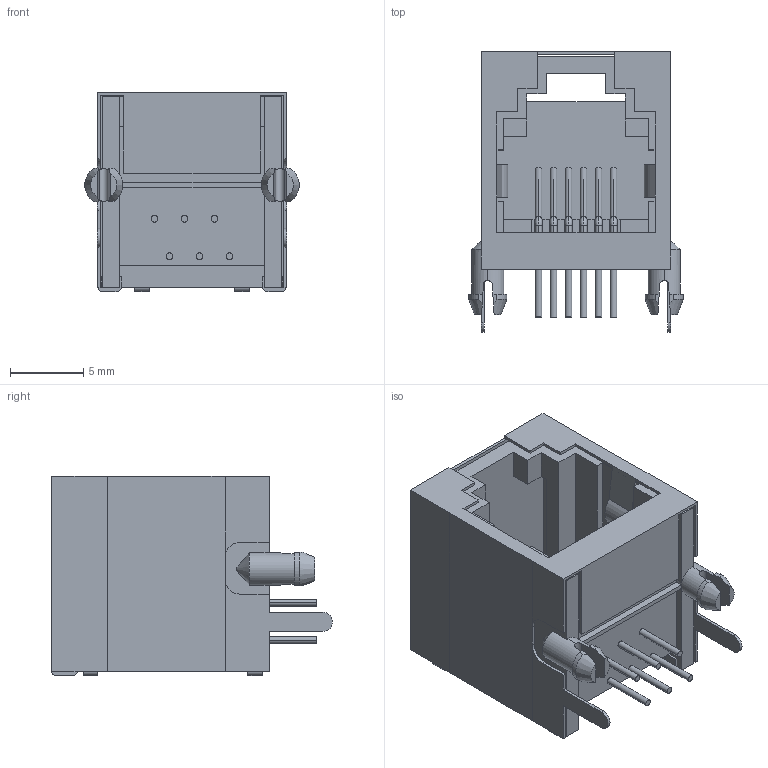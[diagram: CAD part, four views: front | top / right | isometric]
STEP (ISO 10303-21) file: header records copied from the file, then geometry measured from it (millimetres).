
FILE_DESCRIPTION (( 'STEP AP203' ), '1' );
FILE_NAME ('8949-F166-06SBA.STEP', '2019-07-15T06:34:29', ( '' ), ( '' ), 'SwSTEP 2.0', 'SolidWorks 2011', '' );
FILE_SCHEMA (( 'CONFIG_CONTROL_DESIGN' ));
Length unit declared in the file: millimetre
Products named in the file (3): 8949-F166-06SBA; 76045-001_1; 8003-6100_1
Assembly tree (2 placements, depth 2):
  8949-F166-06SBA
    8003-6100_1
    76045-001_1
Bounding box: 14.59 x 19.1 x 13.55 mm (x, y, z)
Volume: 1092.4 mm3; surface area: 3291 mm2
Topology: 2 solids, 2 shells, 397 faces, 1116 edges, 726 vertices
Faces by surface type: plane 257, cylinder 110, bspline 24, cone 6
Entity records: 13759 total; most frequent: CARTESIAN_POINT 3166, ORIENTED_EDGE 2232, DIRECTION 2088, EDGE_CURVE 1116, LINE 808, VECTOR 808, VERTEX_POINT 726, AXIS2_PLACEMENT_3D 640
